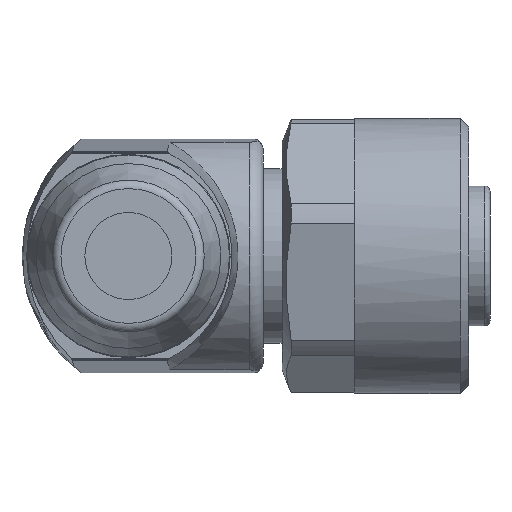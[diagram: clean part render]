
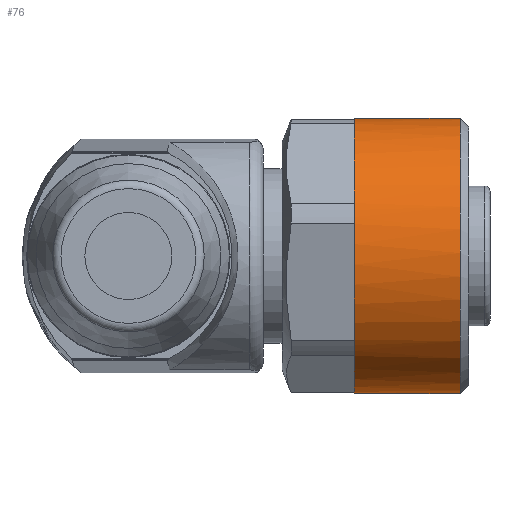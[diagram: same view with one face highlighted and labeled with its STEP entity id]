
A CAD part, front view. The second image highlights one B-rep face of the part: STEP entity #76.
In plain terms, the highlighted cylindrical face has radius 7.749 mm (diameter 15.498 mm), a full revolution.
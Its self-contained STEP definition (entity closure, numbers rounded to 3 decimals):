
#76 = ADVANCED_FACE( '', ( #147, #148 ), #149, .T. );
#147 = FACE_OUTER_BOUND( '', #332, .T. );
#148 = FACE_OUTER_BOUND( '', #333, .T. );
#149 = CYLINDRICAL_SURFACE( '', #334, 7.749 );
#332 = EDGE_LOOP( '', ( #519 ) );
#333 = EDGE_LOOP( '', ( #520, #521, #522, #523, #524, #525, #526, #527, #528, #529, #530, #531 ) );
#334 = AXIS2_PLACEMENT_3D( '', #532, #533, #534 );
#519 = ORIENTED_EDGE( '', *, *, #1002, .F. );
#520 = ORIENTED_EDGE( '', *, *, #1003, .T. );
#521 = ORIENTED_EDGE( '', *, *, #1004, .T. );
#522 = ORIENTED_EDGE( '', *, *, #1005, .T. );
#523 = ORIENTED_EDGE( '', *, *, #1006, .T. );
#524 = ORIENTED_EDGE( '', *, *, #1007, .T. );
#525 = ORIENTED_EDGE( '', *, *, #1008, .T. );
#526 = ORIENTED_EDGE( '', *, *, #1009, .T. );
#527 = ORIENTED_EDGE( '', *, *, #1010, .T. );
#528 = ORIENTED_EDGE( '', *, *, #1011, .T. );
#529 = ORIENTED_EDGE( '', *, *, #1012, .T. );
#530 = ORIENTED_EDGE( '', *, *, #1013, .F. );
#531 = ORIENTED_EDGE( '', *, *, #1014, .T. );
#532 = CARTESIAN_POINT( '', ( 0., 0., 0. ) );
#533 = DIRECTION( '', ( -1., 0., 0. ) );
#534 = DIRECTION( '', ( 0., 0., -1. ) );
#1002 = EDGE_CURVE( '', #1147, #1147, #1148, .F. );
#1003 = EDGE_CURVE( '', #1149, #1150, #1151, .T. );
#1004 = EDGE_CURVE( '', #1150, #1152, #1153, .T. );
#1005 = EDGE_CURVE( '', #1152, #1154, #1155, .T. );
#1006 = EDGE_CURVE( '', #1154, #1156, #1157, .T. );
#1007 = EDGE_CURVE( '', #1156, #1158, #1159, .T. );
#1008 = EDGE_CURVE( '', #1158, #1160, #1161, .T. );
#1009 = EDGE_CURVE( '', #1160, #1162, #1163, .T. );
#1010 = EDGE_CURVE( '', #1162, #1164, #1165, .T. );
#1011 = EDGE_CURVE( '', #1164, #1166, #1167, .T. );
#1012 = EDGE_CURVE( '', #1166, #1168, #1169, .T. );
#1013 = EDGE_CURVE( '', #1170, #1168, #1171, .F. );
#1014 = EDGE_CURVE( '', #1170, #1149, #1172, .T. );
#1147 = VERTEX_POINT( '', #1442 );
#1148 = CIRCLE( '', #1443, 7.749 );
#1149 = VERTEX_POINT( '', #1444 );
#1150 = VERTEX_POINT( '', #1445 );
#1151 = CIRCLE( '', #1446, 7.749 );
#1152 = VERTEX_POINT( '', #1447 );
#1153 = CIRCLE( '', #1448, 7.749 );
#1154 = VERTEX_POINT( '', #1449 );
#1155 = CIRCLE( '', #1450, 7.749 );
#1156 = VERTEX_POINT( '', #1451 );
#1157 = CIRCLE( '', #1452, 7.749 );
#1158 = VERTEX_POINT( '', #1453 );
#1159 = CIRCLE( '', #1454, 7.749 );
#1160 = VERTEX_POINT( '', #1455 );
#1161 = CIRCLE( '', #1456, 7.749 );
#1162 = VERTEX_POINT( '', #1457 );
#1163 = CIRCLE( '', #1458, 7.749 );
#1164 = VERTEX_POINT( '', #1459 );
#1165 = CIRCLE( '', #1460, 7.749 );
#1166 = VERTEX_POINT( '', #1461 );
#1167 = CIRCLE( '', #1462, 7.749 );
#1168 = VERTEX_POINT( '', #1463 );
#1169 = CIRCLE( '', #1464, 7.749 );
#1170 = VERTEX_POINT( '', #1465 );
#1171 = CIRCLE( '', #1466, 7.749 );
#1172 = CIRCLE( '', #1467, 7.749 );
#1442 = CARTESIAN_POINT( '', ( -1.674, 0., 7.749 ) );
#1443 = AXIS2_PLACEMENT_3D( '', #1878, #1879, #1880 );
#1444 = CARTESIAN_POINT( '', ( -7.633, 7.538, -1.796 ) );
#1445 = CARTESIAN_POINT( '', ( -7.633, 6.156, 4.706 ) );
#1446 = AXIS2_PLACEMENT_3D( '', #1881, #1882, #1883 );
#1447 = CARTESIAN_POINT( '', ( -7.633, 5.324, 5.63 ) );
#1448 = AXIS2_PLACEMENT_3D( '', #1884, #1885, #1886 );
#1449 = CARTESIAN_POINT( '', ( -7.633, -0.998, 7.684 ) );
#1450 = AXIS2_PLACEMENT_3D( '', #1887, #1888, #1889 );
#1451 = CARTESIAN_POINT( '', ( -7.633, -2.214, 7.426 ) );
#1452 = AXIS2_PLACEMENT_3D( '', #1890, #1891, #1892 );
#1453 = CARTESIAN_POINT( '', ( -7.633, -7.154, 2.978 ) );
#1454 = AXIS2_PLACEMENT_3D( '', #1893, #1894, #1895 );
#1455 = CARTESIAN_POINT( '', ( -7.633, -7.538, 1.796 ) );
#1456 = AXIS2_PLACEMENT_3D( '', #1896, #1897, #1898 );
#1457 = CARTESIAN_POINT( '', ( -7.633, -6.156, -4.706 ) );
#1458 = AXIS2_PLACEMENT_3D( '', #1899, #1900, #1901 );
#1459 = CARTESIAN_POINT( '', ( -7.633, -5.324, -5.63 ) );
#1460 = AXIS2_PLACEMENT_3D( '', #1902, #1903, #1904 );
#1461 = CARTESIAN_POINT( '', ( -7.633, 0.998, -7.684 ) );
#1462 = AXIS2_PLACEMENT_3D( '', #1905, #1906, #1907 );
#1463 = CARTESIAN_POINT( '', ( -7.633, 2.214, -7.426 ) );
#1464 = AXIS2_PLACEMENT_3D( '', #1908, #1909, #1910 );
#1465 = CARTESIAN_POINT( '', ( -7.633, 7.154, -2.978 ) );
#1466 = AXIS2_PLACEMENT_3D( '', #1911, #1912, #1913 );
#1467 = AXIS2_PLACEMENT_3D( '', #1914, #1915, #1916 );
#1878 = CARTESIAN_POINT( '', ( -1.674, 0., 0. ) );
#1879 = DIRECTION( '', ( -1., 0., 0. ) );
#1880 = DIRECTION( '', ( 0., 0., 1. ) );
#1881 = CARTESIAN_POINT( '', ( -7.633, 0., 0. ) );
#1882 = DIRECTION( '', ( 1., 0., 0. ) );
#1883 = DIRECTION( '', ( 0., 0., -1. ) );
#1884 = CARTESIAN_POINT( '', ( -7.633, 0., 0. ) );
#1885 = DIRECTION( '', ( 1., 0., 0. ) );
#1886 = DIRECTION( '', ( 0., 0., -1. ) );
#1887 = CARTESIAN_POINT( '', ( -7.633, 0., 0. ) );
#1888 = DIRECTION( '', ( 1., 0., 0. ) );
#1889 = DIRECTION( '', ( 0., 0., -1. ) );
#1890 = CARTESIAN_POINT( '', ( -7.633, 0., 0. ) );
#1891 = DIRECTION( '', ( 1., 0., 0. ) );
#1892 = DIRECTION( '', ( 0., 0., -1. ) );
#1893 = CARTESIAN_POINT( '', ( -7.633, 0., 0. ) );
#1894 = DIRECTION( '', ( 1., 0., 0. ) );
#1895 = DIRECTION( '', ( 0., 0., -1. ) );
#1896 = CARTESIAN_POINT( '', ( -7.633, 0., 0. ) );
#1897 = DIRECTION( '', ( 1., 0., 0. ) );
#1898 = DIRECTION( '', ( 0., 0., -1. ) );
#1899 = CARTESIAN_POINT( '', ( -7.633, 0., 0. ) );
#1900 = DIRECTION( '', ( 1., 0., 0. ) );
#1901 = DIRECTION( '', ( 0., 0., -1. ) );
#1902 = CARTESIAN_POINT( '', ( -7.633, 0., 0. ) );
#1903 = DIRECTION( '', ( 1., 0., 0. ) );
#1904 = DIRECTION( '', ( 0., 0., -1. ) );
#1905 = CARTESIAN_POINT( '', ( -7.633, 0., 0. ) );
#1906 = DIRECTION( '', ( 1., 0., 0. ) );
#1907 = DIRECTION( '', ( 0., 0., -1. ) );
#1908 = CARTESIAN_POINT( '', ( -7.633, 0., 0. ) );
#1909 = DIRECTION( '', ( 1., 0., 0. ) );
#1910 = DIRECTION( '', ( 0., 0., -1. ) );
#1911 = CARTESIAN_POINT( '', ( -7.633, 0., 0. ) );
#1912 = DIRECTION( '', ( 1., 0., 0. ) );
#1913 = DIRECTION( '', ( 0., 0., -1. ) );
#1914 = CARTESIAN_POINT( '', ( -7.633, 0., 0. ) );
#1915 = DIRECTION( '', ( 1., 0., 0. ) );
#1916 = DIRECTION( '', ( 0., 0., -1. ) );
